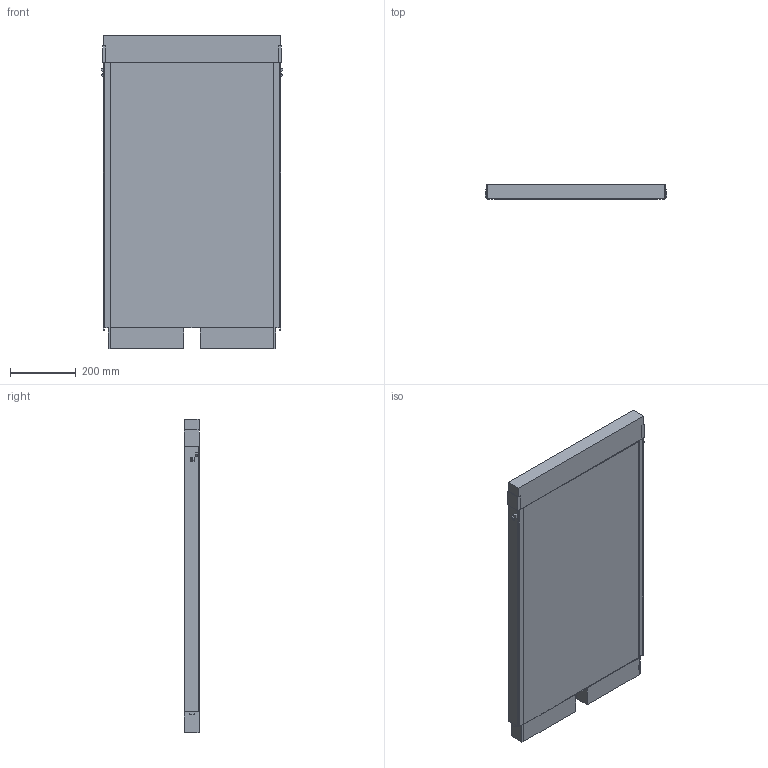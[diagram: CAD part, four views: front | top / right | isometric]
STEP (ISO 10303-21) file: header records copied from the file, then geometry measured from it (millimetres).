
FILE_DESCRIPTION((''),'2;1');
FILE_NAME('002-OU_IT_SPACIAL_ORV3_REV03_','2022-09-29T22:09:47',('gpcharest'),(''),'CREO PARAMETRIC BY PTC INC, 2021424','CREO PARAMETRIC BY PTC INC, 2021424','');
FILE_SCHEMA(('CONFIG_CONTROL_DESIGN'));
Length unit declared in the file: millimetre
Products named in the file (1): 002-OU_IT_SPACIAL_ORV3_REV03_
Bounding box: 552 x 46.5 x 950 mm (x, y, z)
Volume: 2794696.6 mm3; surface area: 2241326.2 mm2
Topology: 1 solids, 12 shells, 562 faces, 1597 edges, 1074 vertices
Faces by surface type: plane 550, cylinder 12
Entity records: 17930 total; most frequent: CARTESIAN_POINT 3234, ORIENTED_EDGE 3162, DIRECTION 2753, EDGE_CURVE 1597, VECTOR 1567, LINE 1567, VERTEX_POINT 1074, AXIS2_PLACEMENT_3D 593
